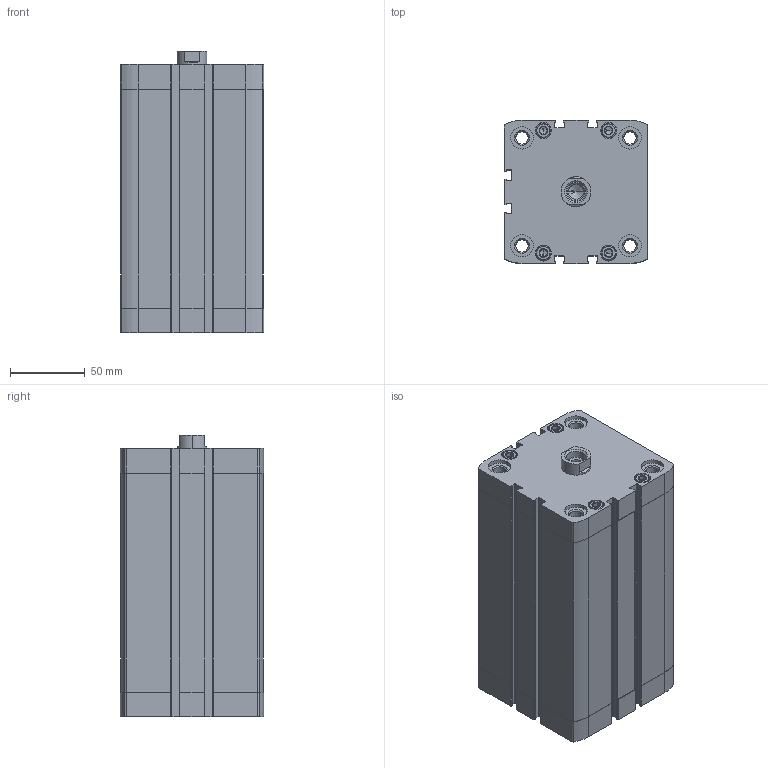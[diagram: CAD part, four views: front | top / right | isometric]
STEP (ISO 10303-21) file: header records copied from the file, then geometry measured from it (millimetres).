
FILE_DESCRIPTION (( 'STEP AP203' ), '1' );
FILE_NAME ('CCN80-125F.STEP', '2017-04-05T19:50:42', ( '' ), ( '' ), 'SwSTEP 2.0', 'SolidWorks 2016', '' );
FILE_SCHEMA (( 'CONFIG_CONTROL_DESIGN' ));
Length unit declared in the file: millimetre
Products named in the file (3): CCN-125_(KS); CCN80-125F; CCN-125---(Z)
Assembly tree (2 placements, depth 2):
  CCN80-125F
    CCN-125---(Z)
    CCN-125_(KS)
Bounding box: 95.5 x 95.5 x 187.9 mm (x, y, z)
Volume: 938675.1 mm3; surface area: 192924.1 mm2
Topology: 2 solids, 2 shells, 487 faces, 1230 edges, 777 vertices
Faces by surface type: plane 227, cylinder 186, cone 74
Entity records: 15261 total; most frequent: CARTESIAN_POINT 3031, DIRECTION 2612, ORIENTED_EDGE 2424, EDGE_CURVE 1212, AXIS2_PLACEMENT_3D 974, VERTEX_POINT 777, LINE 664, VECTOR 664
